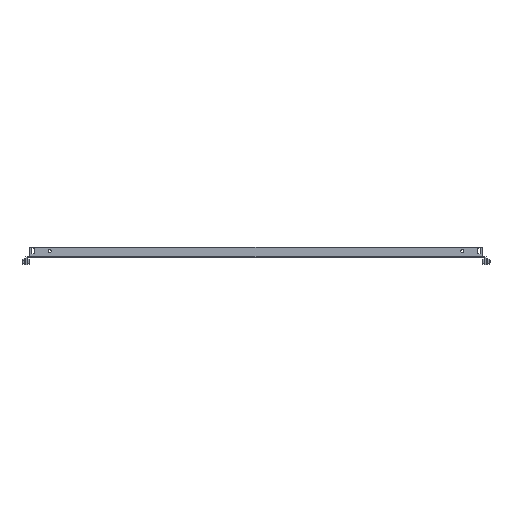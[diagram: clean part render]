
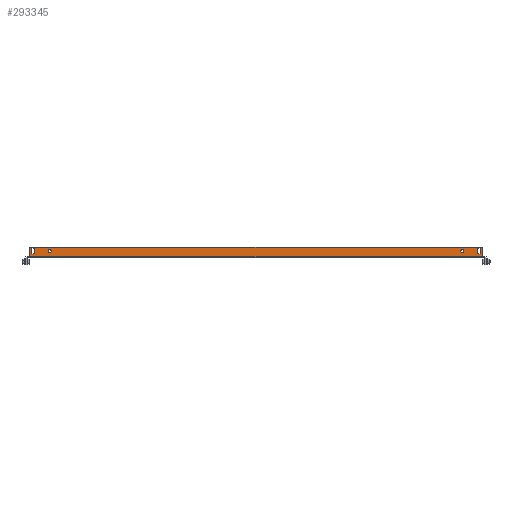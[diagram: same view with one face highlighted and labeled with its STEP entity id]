
A CAD part, front view. The second image highlights one B-rep face of the part: STEP entity #293345.
In plain terms, the highlighted planar face has unit normal (0, -1, 0).
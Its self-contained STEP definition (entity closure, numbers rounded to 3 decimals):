
#237120 = VERTEX_POINT('',#237121);
#237121 = CARTESIAN_POINT('',(541.5,-484.5,0.));
#237127 = EDGE_CURVE('',#237128,#237120,#237130,.T.);
#237128 = VERTEX_POINT('',#237129);
#237129 = CARTESIAN_POINT('',(-541.5,-484.5,0.));
#237130 = LINE('',#237131,#237132);
#237131 = CARTESIAN_POINT('',(-541.5,-484.5,0.));
#237132 = VECTOR('',#237133,1.);
#237133 = DIRECTION('',(1.,-0.,-0.));
#293224 = VERTEX_POINT('',#293225);
#293225 = CARTESIAN_POINT('',(-541.5,-484.5,3.1));
#293240 = EDGE_CURVE('',#293224,#237128,#293241,.T.);
#293241 = LINE('',#293242,#293243);
#293242 = CARTESIAN_POINT('',(-541.5,-484.5,3.1));
#293243 = VECTOR('',#293244,1.);
#293244 = DIRECTION('',(0.,0.,-1.));
#293264 = VERTEX_POINT('',#293265);
#293265 = CARTESIAN_POINT('',(541.5,-484.5,3.1));
#293271 = EDGE_CURVE('',#293264,#237120,#293272,.T.);
#293272 = LINE('',#293273,#293274);
#293273 = CARTESIAN_POINT('',(541.5,-484.5,2.5));
#293274 = VECTOR('',#293275,1.);
#293275 = DIRECTION('',(-0.,0.,-1.));
#293297 = VERTEX_POINT('',#293298);
#293298 = CARTESIAN_POINT('',(541.5,-484.5,26.));
#293304 = EDGE_CURVE('',#293264,#293297,#293305,.T.);
#293305 = LINE('',#293306,#293307);
#293306 = CARTESIAN_POINT('',(541.5,-484.5,26.));
#293307 = VECTOR('',#293308,1.);
#293308 = DIRECTION('',(0.,0.,1.));
#293319 = EDGE_CURVE('',#293320,#293224,#293322,.T.);
#293320 = VERTEX_POINT('',#293321);
#293321 = CARTESIAN_POINT('',(-541.5,-484.5,26.));
#293322 = LINE('',#293323,#293324);
#293323 = CARTESIAN_POINT('',(-541.5,-484.5,2.5));
#293324 = VECTOR('',#293325,1.);
#293325 = DIRECTION('',(0.,0.,-1.));
#293345 = ADVANCED_FACE('',(#293346,#293380,#293391,#293402,#293436),
  #293449,.F.);
#293346 = FACE_BOUND('',#293347,.T.);
#293347 = EDGE_LOOP('',(#293348,#293358,#293366,#293374));
#293348 = ORIENTED_EDGE('',*,*,#293349,.F.);
#293349 = EDGE_CURVE('',#293350,#293352,#293354,.T.);
#293350 = VERTEX_POINT('',#293351);
#293351 = CARTESIAN_POINT('',(536.,-484.5,9.5));
#293352 = VERTEX_POINT('',#293353);
#293353 = CARTESIAN_POINT('',(536.,-484.5,23.5));
#293354 = LINE('',#293355,#293356);
#293355 = CARTESIAN_POINT('',(536.,-484.5,23.5));
#293356 = VECTOR('',#293357,1.);
#293357 = DIRECTION('',(-0.,-0.,1.));
#293358 = ORIENTED_EDGE('',*,*,#293359,.F.);
#293359 = EDGE_CURVE('',#293360,#293350,#293362,.T.);
#293360 = VERTEX_POINT('',#293361);
#293361 = CARTESIAN_POINT('',(529.,-484.5,9.5));
#293362 = LINE('',#293363,#293364);
#293363 = CARTESIAN_POINT('',(536.,-484.5,9.5));
#293364 = VECTOR('',#293365,1.);
#293365 = DIRECTION('',(1.,-0.,-0.));
#293366 = ORIENTED_EDGE('',*,*,#293367,.F.);
#293367 = EDGE_CURVE('',#293368,#293360,#293370,.T.);
#293368 = VERTEX_POINT('',#293369);
#293369 = CARTESIAN_POINT('',(529.,-484.5,23.5));
#293370 = LINE('',#293371,#293372);
#293371 = CARTESIAN_POINT('',(529.,-484.5,9.5));
#293372 = VECTOR('',#293373,1.);
#293373 = DIRECTION('',(-0.,-0.,-1.));
#293374 = ORIENTED_EDGE('',*,*,#293375,.F.);
#293375 = EDGE_CURVE('',#293352,#293368,#293376,.T.);
#293376 = LINE('',#293377,#293378);
#293377 = CARTESIAN_POINT('',(529.,-484.5,23.5));
#293378 = VECTOR('',#293379,1.);
#293379 = DIRECTION('',(-1.,-0.,-0.));
#293380 = FACE_BOUND('',#293381,.T.);
#293381 = EDGE_LOOP('',(#293382));
#293382 = ORIENTED_EDGE('',*,*,#293383,.F.);
#293383 = EDGE_CURVE('',#293384,#293384,#293386,.T.);
#293384 = VERTEX_POINT('',#293385);
#293385 = CARTESIAN_POINT('',(493.,-484.5,20.));
#293386 = CIRCLE('',#293387,3.5);
#293387 = AXIS2_PLACEMENT_3D('',#293388,#293389,#293390);
#293388 = CARTESIAN_POINT('',(493.,-484.5,16.5));
#293389 = DIRECTION('',(0.,-1.,0.));
#293390 = DIRECTION('',(0.,0.,1.));
#293391 = FACE_BOUND('',#293392,.T.);
#293392 = EDGE_LOOP('',(#293393));
#293393 = ORIENTED_EDGE('',*,*,#293394,.F.);
#293394 = EDGE_CURVE('',#293395,#293395,#293397,.T.);
#293395 = VERTEX_POINT('',#293396);
#293396 = CARTESIAN_POINT('',(-493.,-484.5,13.));
#293397 = CIRCLE('',#293398,3.5);
#293398 = AXIS2_PLACEMENT_3D('',#293399,#293400,#293401);
#293399 = CARTESIAN_POINT('',(-493.,-484.5,16.5));
#293400 = DIRECTION('',(0.,-1.,0.));
#293401 = DIRECTION('',(0.,0.,-1.));
#293402 = FACE_BOUND('',#293403,.T.);
#293403 = EDGE_LOOP('',(#293404,#293414,#293422,#293430));
#293404 = ORIENTED_EDGE('',*,*,#293405,.F.);
#293405 = EDGE_CURVE('',#293406,#293408,#293410,.T.);
#293406 = VERTEX_POINT('',#293407);
#293407 = CARTESIAN_POINT('',(-536.,-484.5,23.5));
#293408 = VERTEX_POINT('',#293409);
#293409 = CARTESIAN_POINT('',(-536.,-484.5,9.5));
#293410 = LINE('',#293411,#293412);
#293411 = CARTESIAN_POINT('',(-536.,-484.5,9.5));
#293412 = VECTOR('',#293413,1.);
#293413 = DIRECTION('',(-0.,-0.,-1.));
#293414 = ORIENTED_EDGE('',*,*,#293415,.F.);
#293415 = EDGE_CURVE('',#293416,#293406,#293418,.T.);
#293416 = VERTEX_POINT('',#293417);
#293417 = CARTESIAN_POINT('',(-529.,-484.5,23.5));
#293418 = LINE('',#293419,#293420);
#293419 = CARTESIAN_POINT('',(-536.,-484.5,23.5));
#293420 = VECTOR('',#293421,1.);
#293421 = DIRECTION('',(-1.,-0.,-0.));
#293422 = ORIENTED_EDGE('',*,*,#293423,.F.);
#293423 = EDGE_CURVE('',#293424,#293416,#293426,.T.);
#293424 = VERTEX_POINT('',#293425);
#293425 = CARTESIAN_POINT('',(-529.,-484.5,9.5));
#293426 = LINE('',#293427,#293428);
#293427 = CARTESIAN_POINT('',(-529.,-484.5,23.5));
#293428 = VECTOR('',#293429,1.);
#293429 = DIRECTION('',(-0.,-0.,1.));
#293430 = ORIENTED_EDGE('',*,*,#293431,.F.);
#293431 = EDGE_CURVE('',#293408,#293424,#293432,.T.);
#293432 = LINE('',#293433,#293434);
#293433 = CARTESIAN_POINT('',(-529.,-484.5,9.5));
#293434 = VECTOR('',#293435,1.);
#293435 = DIRECTION('',(1.,-0.,-0.));
#293436 = FACE_BOUND('',#293437,.T.);
#293437 = EDGE_LOOP('',(#293438,#293439,#293440,#293441,#293442,#293443)
  );
#293438 = ORIENTED_EDGE('',*,*,#293319,.T.);
#293439 = ORIENTED_EDGE('',*,*,#293240,.T.);
#293440 = ORIENTED_EDGE('',*,*,#237127,.T.);
#293441 = ORIENTED_EDGE('',*,*,#293271,.F.);
#293442 = ORIENTED_EDGE('',*,*,#293304,.T.);
#293443 = ORIENTED_EDGE('',*,*,#293444,.T.);
#293444 = EDGE_CURVE('',#293297,#293320,#293445,.T.);
#293445 = LINE('',#293446,#293447);
#293446 = CARTESIAN_POINT('',(-541.5,-484.5,26.));
#293447 = VECTOR('',#293448,1.);
#293448 = DIRECTION('',(-1.,-0.,-0.));
#293449 = PLANE('',#293450);
#293450 = AXIS2_PLACEMENT_3D('',#293451,#293452,#293453);
#293451 = CARTESIAN_POINT('',(541.5,-484.5,2.5));
#293452 = DIRECTION('',(-0.,1.,0.));
#293453 = DIRECTION('',(0.,0.,1.));
